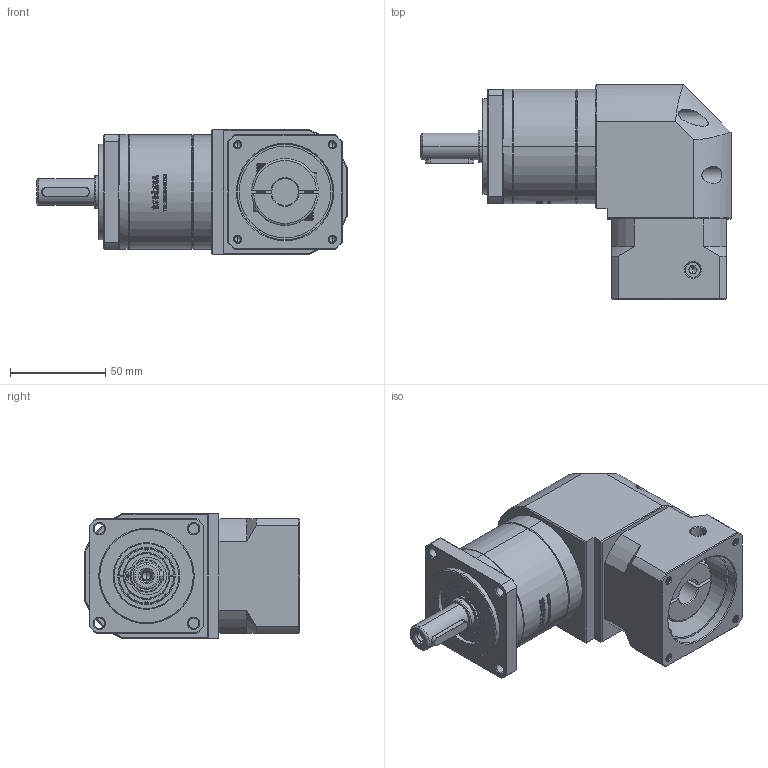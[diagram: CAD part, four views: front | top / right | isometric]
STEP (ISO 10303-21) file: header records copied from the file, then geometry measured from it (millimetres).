
FILE_DESCRIPTION (( 'STEP AP214' ), '1' );
FILE_NAME ('ZFR60-D14-L1-14-50-70-M4.STEP', '2022-04-20T08:59:28', ( '' ), ( 'Microsoft' ), 'SwSTEP 2.0', 'SolidWorks 2016', '' );
FILE_SCHEMA (( 'AUTOMOTIVE_DESIGN' ));
Length unit declared in the file: millimetre
Products named in the file (1): ZFR60-D14-L1-14-50-70-M4
Bounding box: 162.5 x 112.7 x 65 mm (x, y, z)
Volume: 536825.1 mm3; surface area: 78417.6 mm2
Topology: 5 solids, 6 shells, 2684 faces, 7293 edges, 4746 vertices
Faces by surface type: plane 1397, bspline 591, cylinder 394, cone 288, torus 14
Entity records: 146870 total; most frequent: CARTESIAN_POINT 55317, ORIENTED_EDGE 14542, DIRECTION 10410, EDGE_CURVE 7271, VERTEX_POINT 4746, VECTOR 4380, LINE 4380, AXIS2_PLACEMENT_3D 3015
